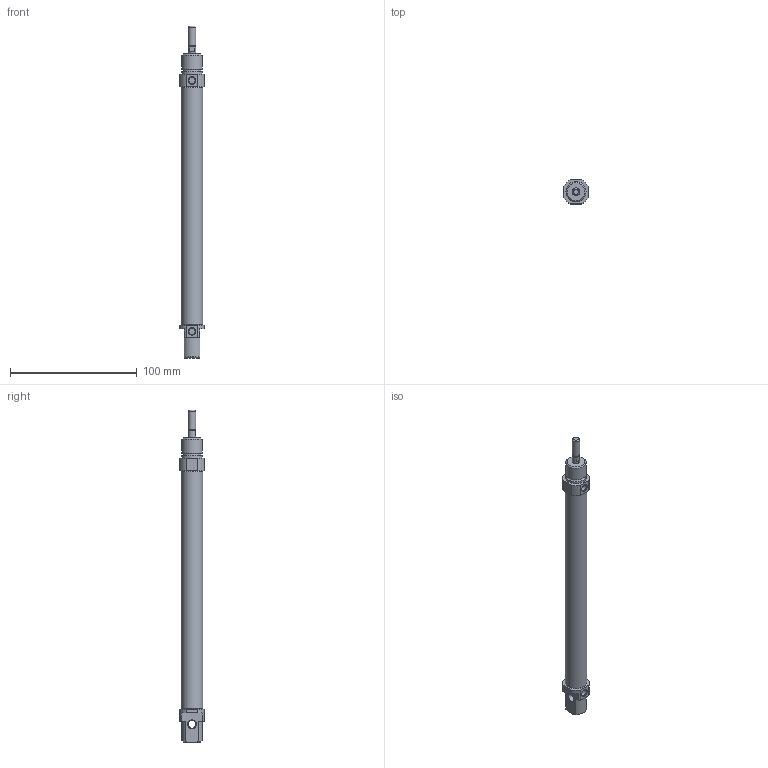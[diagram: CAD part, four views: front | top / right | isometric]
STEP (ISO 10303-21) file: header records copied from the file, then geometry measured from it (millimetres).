
FILE_DESCRIPTION((''),'2;1');
FILE_NAME('I:\3D電子目錄\氣缸\SDA\SDA16\SDA16\SDA16x150.stp','2007-08-06T10:29:21',('Administrator'),(''),'Autodesk Inventor 2008','Autodesk Inventor 2008','');
FILE_SCHEMA(('AUTOMOTIVE_DESIGN { 1 0 10303 214 1 1 1 1 }'));
Length unit declared in the file: millimetre
Products named in the file (1): SDA16X150
Bounding box: 19 x 19 x 262 mm (x, y, z)
Volume: 55216.6 mm3; surface area: 14715.8 mm2
Topology: 1 solids, 1 shells, 60 faces, 138 edges, 88 vertices
Faces by surface type: plane 26, cylinder 19, cone 12, bspline 2, torus 1
Full cylindrical faces by diameter (mm): 4.6 x1, 5 x2, 6 x3, 16 x2, 17.2 x1
Entity records: 1626 total; most frequent: CARTESIAN_POINT 289, DIRECTION 286, ORIENTED_EDGE 238, EDGE_CURVE 119, AXIS2_PLACEMENT_3D 116, EDGE_LOOP 88, VERTEX_POINT 87, FACE_OUTER_BOUND 60
